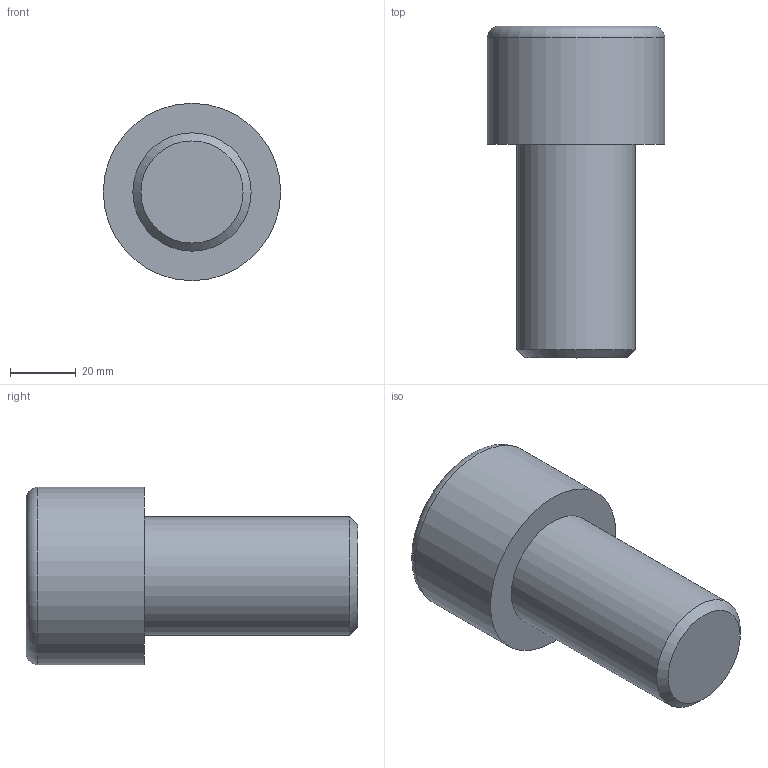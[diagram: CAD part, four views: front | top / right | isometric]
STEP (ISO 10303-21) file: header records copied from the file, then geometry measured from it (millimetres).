
FILE_DESCRIPTION(/* description */ (''),/* implementation_level */ '2;1');
FILE_NAME(/* name */ 'C:\Users\D\Documents\Inventor\各種小物\JIS\JIS B 1176 六角穴付きボルト\M36x65.stp',/* time_stamp */ '2022-05-09T19:04:14+09:00',/* author */ ('D'),/* organization */ (''),/* preprocessor_version */ 'ST-DEVELOPER v18',/* originating_system */ 'Autodesk Inventor 2020',/* authorisation */ '');
FILE_SCHEMA (('AUTOMOTIVE_DESIGN { 1 0 10303 214 3 1 1 }'));
Length unit declared in the file: millimetre
Products named in the file (1): M1.6x2.5
Bounding box: 54 x 101 x 54 mm (x, y, z)
Volume: 133605.4 mm3; surface area: 19549.9 mm2
Topology: 1 solids, 1 shells, 14 faces, 33 edges, 22 vertices
Faces by surface type: plane 9, cone 2, cylinder 2, torus 1
Full cylindrical faces by diameter (mm): 36 x1, 54 x1
Entity records: 435 total; most frequent: CARTESIAN_POINT 83, ORIENTED_EDGE 64, DIRECTION 64, EDGE_CURVE 32, AXIS2_PLACEMENT_3D 24, VERTEX_POINT 22, EDGE_LOOP 16, LINE 16
